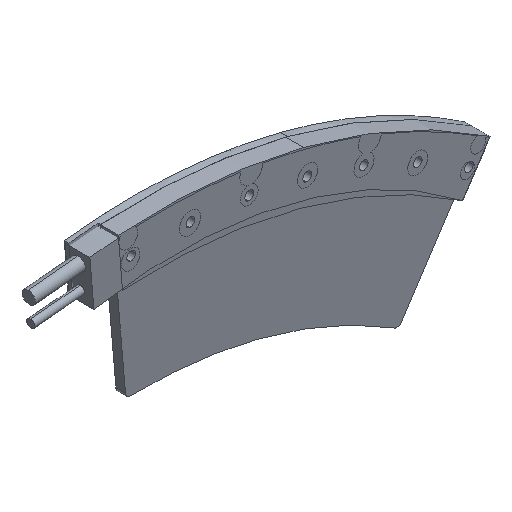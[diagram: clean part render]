
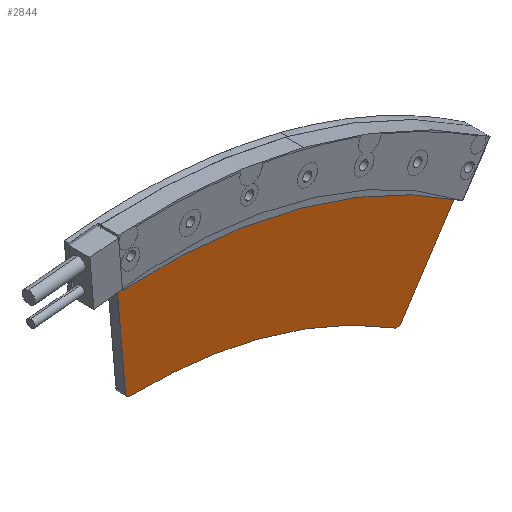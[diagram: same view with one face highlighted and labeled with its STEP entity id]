
A CAD part, isometric view. The second image highlights one B-rep face of the part: STEP entity #2844.
In plain terms, the highlighted planar face has unit normal (0, -1, 0).
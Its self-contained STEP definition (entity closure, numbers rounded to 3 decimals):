
#70 = DIRECTION ( 'NONE',  ( 0., 0., 1. ) ) ;
#119 = CARTESIAN_POINT ( 'NONE',  ( 58.492, 3.1, -39.163 ) ) ;
#123 = CARTESIAN_POINT ( 'NONE',  ( -2.64, 3.1, -221.139 ) ) ;
#207 = CIRCLE ( 'NONE', #1636, 2. ) ;
#323 = DIRECTION ( 'NONE',  ( 0.379, 0., -0.925 ) ) ;
#379 = DIRECTION ( 'NONE',  ( 0., -1., 0. ) ) ;
#456 = VERTEX_POINT ( 'NONE', #3125 ) ;
#561 = CARTESIAN_POINT ( 'NONE',  ( -53.7, 3.1, -36.053 ) ) ;
#577 = CARTESIAN_POINT ( 'NONE',  ( -2.64, 3.1, -221.139 ) ) ;
#585 = EDGE_CURVE ( 'NONE', #6856, #456, #3236, .T. ) ;
#698 = DIRECTION ( 'NONE',  ( 0., 0., 1. ) ) ;
#1017 = VERTEX_POINT ( 'NONE', #6573 ) ;
#1051 = AXIS2_PLACEMENT_3D ( 'NONE', #577, #1680, #5643 ) ;
#1189 = VERTEX_POINT ( 'NONE', #5650 ) ;
#1242 = VECTOR ( 'NONE', #6061, 1000. ) ;
#1246 = VERTEX_POINT ( 'NONE', #6846 ) ;
#1294 = ORIENTED_EDGE ( 'NONE', *, *, #585, .T. ) ;
#1402 = VECTOR ( 'NONE', #6027, 1000. ) ;
#1465 = EDGE_CURVE ( 'NONE', #6626, #5009, #5355, .T. ) ;
#1513 = CARTESIAN_POINT ( 'NONE',  ( -2.89, 3.1, -172.63 ) ) ;
#1565 = DIRECTION ( 'NONE',  ( 0., 0., -1. ) ) ;
#1607 = ORIENTED_EDGE ( 'NONE', *, *, #3818, .T. ) ;
#1626 = VECTOR ( 'NONE', #6412, 1000. ) ;
#1636 = AXIS2_PLACEMENT_3D ( 'NONE', #3579, #5826, #6345 ) ;
#1648 = DIRECTION ( 'NONE',  ( 0.949, 0., 0.316 ) ) ;
#1680 = DIRECTION ( 'NONE',  ( 0., 1., 0. ) ) ;
#2075 = CARTESIAN_POINT ( 'NONE',  ( 77.748, 3.1, 16.331 ) ) ;
#2112 = EDGE_CURVE ( 'NONE', #1189, #1017, #2734, .T. ) ;
#2114 = CARTESIAN_POINT ( 'NONE',  ( -73.798, 3.1, -1.431 ) ) ;
#2263 = DIRECTION ( 'NONE',  ( 0., -1., 0. ) ) ;
#2362 = EDGE_CURVE ( 'NONE', #456, #3802, #7212, .T. ) ;
#2734 = LINE ( 'NONE', #2114, #1402 ) ;
#2844 = ADVANCED_FACE ( 'NONE', ( #7111 ), #2879, .F. ) ;
#2852 = AXIS2_PLACEMENT_3D ( 'NONE', #123, #4619, #698 ) ;
#2879 = PLANE ( 'NONE',  #5791 ) ;
#2997 = ORIENTED_EDGE ( 'NONE', *, *, #3262, .T. ) ;
#3125 = CARTESIAN_POINT ( 'NONE',  ( -2.64, 3.1, -31.139 ) ) ;
#3236 = CIRCLE ( 'NONE', #1051, 190. ) ;
#3262 = EDGE_CURVE ( 'NONE', #6133, #1189, #3507, .T. ) ;
#3297 = CARTESIAN_POINT ( 'NONE',  ( -63.186, 3.1, 2.256 ) ) ;
#3367 = DIRECTION ( 'NONE',  ( 0., 0., 1. ) ) ;
#3446 = CARTESIAN_POINT ( 'NONE',  ( -2.221, 3.1, -180.515 ) ) ;
#3507 = LINE ( 'NONE', #3297, #4107 ) ;
#3579 = CARTESIAN_POINT ( 'NONE',  ( 56.603, 3.1, -38.508 ) ) ;
#3700 = CARTESIAN_POINT ( 'NONE',  ( -55.588, 3.1, -36.712 ) ) ;
#3714 = ORIENTED_EDGE ( 'NONE', *, *, #7104, .T. ) ;
#3802 = VERTEX_POINT ( 'NONE', #5111 ) ;
#3818 = EDGE_CURVE ( 'NONE', #5547, #6856, #5151, .T. ) ;
#4107 = VECTOR ( 'NONE', #1648, 1000. ) ;
#4108 = CARTESIAN_POINT ( 'NONE',  ( 4.403, 3.1, -177.804 ) ) ;
#4370 = ORIENTED_EDGE ( 'NONE', *, *, #2362, .T. ) ;
#4619 = DIRECTION ( 'NONE',  ( 0., 1., 0. ) ) ;
#4696 = CARTESIAN_POINT ( 'NONE',  ( -68.474, 3.1, 0.224 ) ) ;
#4782 = EDGE_LOOP ( 'NONE', ( #2997, #7143, #5962, #6022, #1607, #1294, #4370, #6032, #6971, #3714 ) ) ;
#5009 = VERTEX_POINT ( 'NONE', #119 ) ;
#5111 = CARTESIAN_POINT ( 'NONE',  ( 55.985, 3.1, -40.41 ) ) ;
#5151 = CIRCLE ( 'NONE', #5608, 2. ) ;
#5215 = CARTESIAN_POINT ( 'NONE',  ( 71.355, 3.1, -2.091 ) ) ;
#5342 = CARTESIAN_POINT ( 'NONE',  ( -79.884, 3.1, -3.314 ) ) ;
#5355 = LINE ( 'NONE', #2075, #1242 ) ;
#5361 = CARTESIAN_POINT ( 'NONE',  ( -53.168, 3.1, -37.981 ) ) ;
#5547 = VERTEX_POINT ( 'NONE', #3700 ) ;
#5564 = VECTOR ( 'NONE', #323, 1000. ) ;
#5566 = CIRCLE ( 'NONE', #6200, 186. ) ;
#5608 = AXIS2_PLACEMENT_3D ( 'NONE', #561, #2263, #3367 ) ;
#5643 = DIRECTION ( 'NONE',  ( 0., 0., 1. ) ) ;
#5650 = CARTESIAN_POINT ( 'NONE',  ( -71.574, 3.1, -0.542 ) ) ;
#5791 = AXIS2_PLACEMENT_3D ( 'NONE', #3446, #6749, #70 ) ;
#5826 = DIRECTION ( 'NONE',  ( 0., -1., 0. ) ) ;
#5962 = ORIENTED_EDGE ( 'NONE', *, *, #6051, .T. ) ;
#6003 = EDGE_CURVE ( 'NONE', #3802, #5009, #207, .T. ) ;
#6022 = ORIENTED_EDGE ( 'NONE', *, *, #6040, .T. ) ;
#6027 = DIRECTION ( 'NONE',  ( 0.929, 0., 0.371 ) ) ;
#6032 = ORIENTED_EDGE ( 'NONE', *, *, #6003, .T. ) ;
#6040 = EDGE_CURVE ( 'NONE', #1246, #5547, #6103, .T. ) ;
#6051 = EDGE_CURVE ( 'NONE', #1017, #1246, #7062, .T. ) ;
#6061 = DIRECTION ( 'NONE',  ( -0.328, 0., -0.945 ) ) ;
#6103 = LINE ( 'NONE', #4696, #1626 ) ;
#6133 = VERTEX_POINT ( 'NONE', #5342 ) ;
#6200 = AXIS2_PLACEMENT_3D ( 'NONE', #1513, #379, #1565 ) ;
#6345 = DIRECTION ( 'NONE',  ( 0., 0., 1. ) ) ;
#6412 = DIRECTION ( 'NONE',  ( 0.329, 0., -0.944 ) ) ;
#6573 = CARTESIAN_POINT ( 'NONE',  ( -68.64, 3.1, 0.63 ) ) ;
#6626 = VERTEX_POINT ( 'NONE', #5215 ) ;
#6749 = DIRECTION ( 'NONE',  ( 0., 1., 0. ) ) ;
#6846 = CARTESIAN_POINT ( 'NONE',  ( -68.474, 3.1, 0.224 ) ) ;
#6856 = VERTEX_POINT ( 'NONE', #5361 ) ;
#6971 = ORIENTED_EDGE ( 'NONE', *, *, #1465, .F. ) ;
#7062 = LINE ( 'NONE', #4108, #5564 ) ;
#7104 = EDGE_CURVE ( 'NONE', #6626, #6133, #5566, .T. ) ;
#7111 = FACE_OUTER_BOUND ( 'NONE', #4782, .T. ) ;
#7143 = ORIENTED_EDGE ( 'NONE', *, *, #2112, .T. ) ;
#7212 = CIRCLE ( 'NONE', #2852, 190. ) ;
